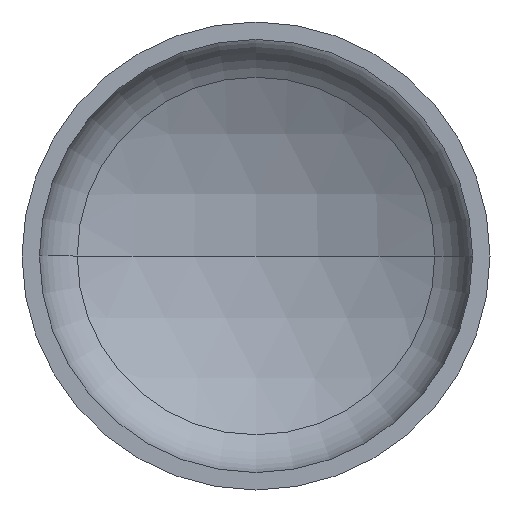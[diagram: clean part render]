
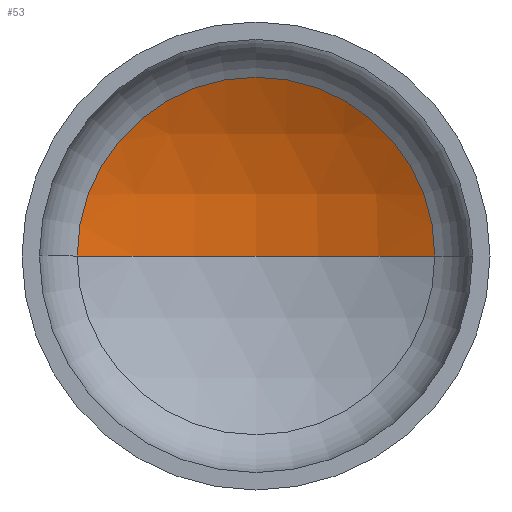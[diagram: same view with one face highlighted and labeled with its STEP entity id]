
A CAD part, front view. The second image highlights one B-rep face of the part: STEP entity #53.
In plain terms, the highlighted spherical face has radius 1760 mm.
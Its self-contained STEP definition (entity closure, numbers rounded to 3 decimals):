
#2 = VERTEX_POINT ( 'NONE', #258 ) ;
#4 = ORIENTED_EDGE ( 'NONE', *, *, #114, .T. ) ;
#6 = CARTESIAN_POINT ( 'NONE',  ( 0., -1147.684, 0. ) ) ;
#30 = EDGE_LOOP ( 'NONE', ( #128, #4, #156 ) ) ;
#42 = VERTEX_POINT ( 'NONE', #280 ) ;
#48 = AXIS2_PLACEMENT_3D ( 'NONE', #6, #305, #97 ) ;
#53 = ADVANCED_FACE ( 'NONE', ( #158 ), #411, .F. ) ;
#54 = AXIS2_PLACEMENT_3D ( 'NONE', #376, #243, #103 ) ;
#55 = AXIS2_PLACEMENT_3D ( 'NONE', #218, #199, #201 ) ;
#75 = VERTEX_POINT ( 'NONE', #235 ) ;
#82 = AXIS2_PLACEMENT_3D ( 'NONE', #278, #255, #254 ) ;
#97 = DIRECTION ( 'NONE',  ( 1., 0., 0. ) ) ;
#103 = DIRECTION ( 'NONE',  ( -1., 0., 0. ) ) ;
#108 = EDGE_CURVE ( 'NONE', #42, #2, #347, .T. ) ;
#114 = EDGE_CURVE ( 'NONE', #75, #42, #230, .T. ) ;
#117 = EDGE_CURVE ( 'NONE', #75, #2, #161, .T. ) ;
#128 = ORIENTED_EDGE ( 'NONE', *, *, #117, .F. ) ;
#156 = ORIENTED_EDGE ( 'NONE', *, *, #108, .T. ) ;
#158 = FACE_OUTER_BOUND ( 'NONE', #30, .T. ) ;
#161 = CIRCLE ( 'NONE', #48, 1760. ) ;
#199 = DIRECTION ( 'NONE',  ( 0., -1., 0. ) ) ;
#201 = DIRECTION ( 'NONE',  ( 1., 0., 0. ) ) ;
#218 = CARTESIAN_POINT ( 'NONE',  ( 0., 398.741, 0. ) ) ;
#230 = CIRCLE ( 'NONE', #54, 1760. ) ;
#235 = CARTESIAN_POINT ( 'NONE',  ( 0., 612.316, 0. ) ) ;
#243 = DIRECTION ( 'NONE',  ( 0., 0., -1. ) ) ;
#254 = DIRECTION ( 'NONE',  ( -1., 0., 0. ) ) ;
#255 = DIRECTION ( 'NONE',  ( 0., 0., -1. ) ) ;
#258 = CARTESIAN_POINT ( 'NONE',  ( -840.338, 398.741, 0. ) ) ;
#278 = CARTESIAN_POINT ( 'NONE',  ( 0., -1147.684, 0. ) ) ;
#280 = CARTESIAN_POINT ( 'NONE',  ( 840.338, 398.741, 0. ) ) ;
#305 = DIRECTION ( 'NONE',  ( 0., 0., 1. ) ) ;
#347 = CIRCLE ( 'NONE', #55, 840.338 ) ;
#376 = CARTESIAN_POINT ( 'NONE',  ( 0., -1147.684, 0. ) ) ;
#411 = SPHERICAL_SURFACE ( 'NONE', #82, 1760. ) ;
